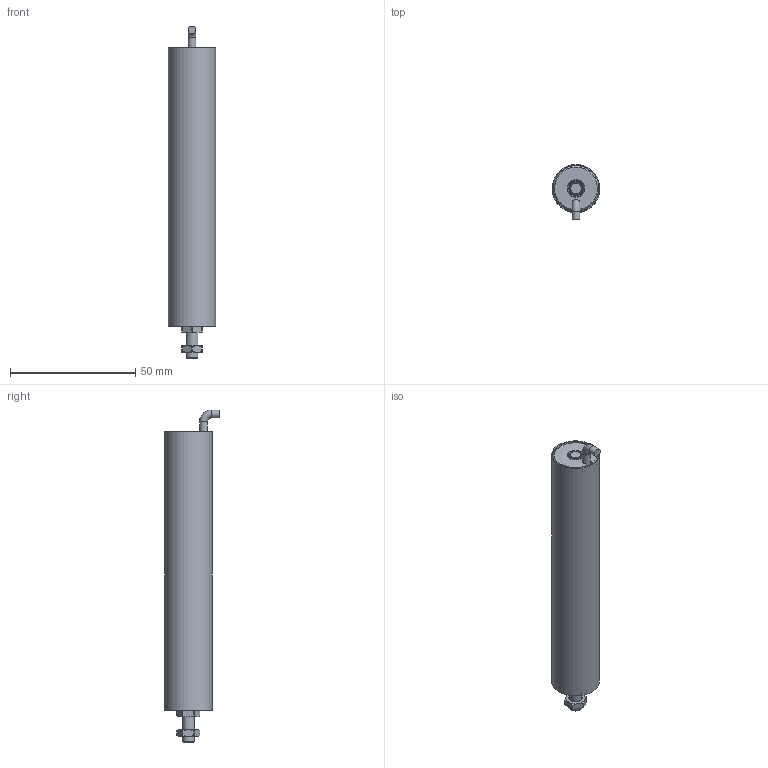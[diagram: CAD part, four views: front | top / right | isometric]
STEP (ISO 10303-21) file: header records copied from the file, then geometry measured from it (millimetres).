
FILE_DESCRIPTION(/* description */ ('ILPS-19Z-XXX-A-00-ZZ shrinkwrapped'),/* implementation_level */ '2;1');
FILE_NAME(/* name */ 'ILPS-19Z-100-A-00-ZZ shrinkwrapped.stp',/* time_stamp */ '2026-08-13T16:08:23-04:00',/* author */ ('Cameron'),/* organization */ ('hgsi'),/* preprocessor_version */ 'ST-DEVELOPER v20.1',/* originating_system */ 'Autodesk Inventor 2027',/* authorisation */ '');
FILE_SCHEMA (('AUTOMOTIVE_DESIGN { 1 0 10303 214 3 1 1 }'));
Length unit declared in the file: inch
Products named in the file (4): ILPS-19Z-100-A-00-ZZ shrinkwrapped; ILPS-19Z-100-A-00-ZZ-A shrinkwrapped body; ILPS-19Z-100 Rod; 8200-0360
Assembly tree (4 placements, depth 2):
  ILPS-19Z-100-A-00-ZZ shrinkwrapped
    ILPS-19Z-100-A-00-ZZ-A shrinkwrapped body
    ILPS-19Z-100 Rod
    8200-0360  x2
Bounding box: 19.05 x 21.89 x 132.65 mm (x, y, z)
Volume: 6704.4 mm3; surface area: 24603.5 mm2
Topology: 6 solids, 6 shells, 95 faces, 226 edges, 149 vertices
Faces by surface type: cylinder 41, plane 33, cone 16, bspline 4, torus 1
Full cylindrical faces by diameter (mm): 3.175 x2, 3.961 x2, 4.75 x1, 4.775 x1, 5 x4, 5.08 x1, 5.944 x2, 5.994 x1, 7.061 x1, 7.137 x2, 18.364 x1, 18.415 x1, 19.05 x1
Entity records: 2811 total; most frequent: CARTESIAN_POINT 1138, DIRECTION 304, ORIENTED_EDGE 302, EDGE_CURVE 151, AXIS2_PLACEMENT_3D 127, VERTEX_POINT 99, EDGE_LOOP 82, FACE_OUTER_BOUND 68
